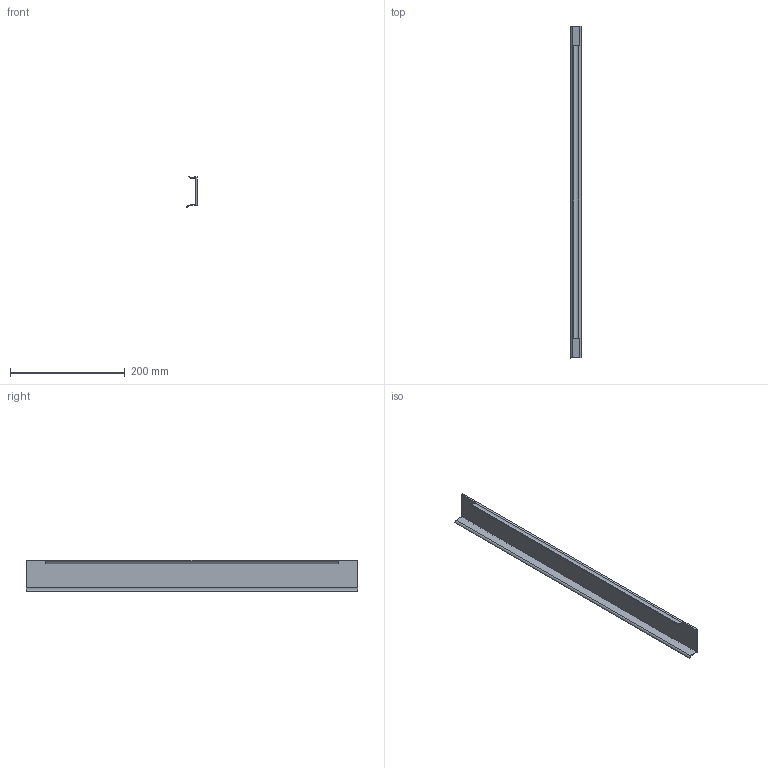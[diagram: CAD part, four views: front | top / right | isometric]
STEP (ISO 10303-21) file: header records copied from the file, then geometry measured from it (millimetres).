
FILE_DESCRIPTION (( 'STEP AP214' ), '1' );
FILE_NAME ('Sidecover_NL-600.step', '2010-09-21T06:52:15', ( 'grass' ), ( '' ), 'SwSTEP 2.0', 'SolidWorks 2010', '' );
FILE_SCHEMA (( 'AUTOMOTIVE_DESIGN' ));
Length unit declared in the file: millimetre
Products named in the file (1): Sidecover_NL-600
Bounding box: 18.14 x 579.5 x 54.9 mm (x, y, z)
Volume: 95479.8 mm3; surface area: 93291.9 mm2
Topology: 1 solids, 1 shells, 19 faces, 51 edges, 34 vertices
Faces by surface type: plane 14, cylinder 5
Entity records: 629 total; most frequent: CARTESIAN_POINT 105, ORIENTED_EDGE 102, DIRECTION 101, EDGE_CURVE 51, LINE 41, VECTOR 41, VERTEX_POINT 34, AXIS2_PLACEMENT_3D 30
